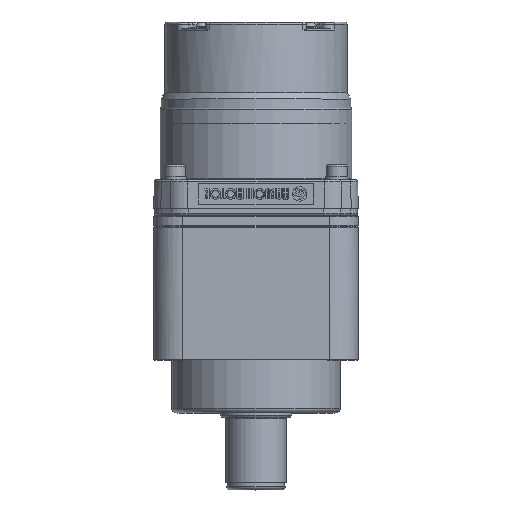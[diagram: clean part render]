
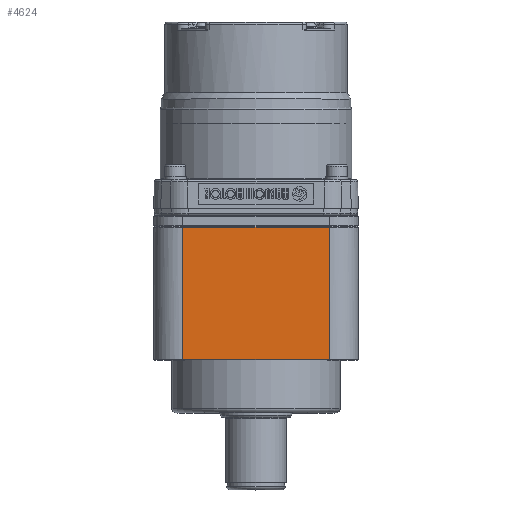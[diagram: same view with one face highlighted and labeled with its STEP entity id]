
A CAD part, top view. The second image highlights one B-rep face of the part: STEP entity #4624.
In plain terms, the highlighted planar face has unit normal (0, 0, 1) as drawn and (0, 0, -1) by its records, which use the part's own axes.
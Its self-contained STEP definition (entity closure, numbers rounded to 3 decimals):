
#1175=PLANE('',#38082);
#4624=ADVANCED_FACE('',(#7508),#1175,.F.);
#7508=FACE_OUTER_BOUND('',#9805,.T.);
#9805=EDGE_LOOP('',(#22400,#22401,#22402,#22403));
#12385=LINE('',#61205,#14862);
#12386=LINE('',#61208,#14863);
#12387=LINE('',#61210,#14864);
#12388=LINE('',#61212,#14865);
#14862=VECTOR('',#46368,1.);
#14863=VECTOR('',#46369,1.);
#14864=VECTOR('',#46370,1.);
#14865=VECTOR('',#46371,1.);
#22400=ORIENTED_EDGE('',*,*,#31993,.T.);
#22401=ORIENTED_EDGE('',*,*,#31994,.T.);
#22402=ORIENTED_EDGE('',*,*,#31995,.T.);
#22403=ORIENTED_EDGE('',*,*,#31996,.T.);
#27627=VERTEX_POINT('',#61206);
#27628=VERTEX_POINT('',#61207);
#27629=VERTEX_POINT('',#61209);
#27630=VERTEX_POINT('',#61211);
#31993=EDGE_CURVE('',#27627,#27628,#12385,.T.);
#31994=EDGE_CURVE('',#27628,#27629,#12386,.T.);
#31995=EDGE_CURVE('',#27629,#27630,#12387,.T.);
#31996=EDGE_CURVE('',#27630,#27627,#12388,.T.);
#38082=AXIS2_PLACEMENT_3D('',#61213,#46372,#46373);
#46368=DIRECTION('',(0.,1.,0.));
#46369=DIRECTION('',(1.,0.,0.));
#46370=DIRECTION('',(0.,-1.,0.));
#46371=DIRECTION('',(-1.,0.,0.));
#46372=DIRECTION('',(0.,0.,1.));
#46373=DIRECTION('',(-1.,0.,0.));
#61205=CARTESIAN_POINT('',(-30.5,0.,-42.5));
#61206=CARTESIAN_POINT('',(-30.5,0.3,-42.5));
#61207=CARTESIAN_POINT('',(-30.5,55.2,-42.5));
#61208=CARTESIAN_POINT('',(30.5,55.2,-42.5));
#61209=CARTESIAN_POINT('',(30.5,55.2,-42.5));
#61210=CARTESIAN_POINT('',(30.5,0.,-42.5));
#61211=CARTESIAN_POINT('',(30.5,0.3,-42.5));
#61212=CARTESIAN_POINT('',(-30.5,0.3,-42.5));
#61213=CARTESIAN_POINT('',(-42.5,0.,-42.5));
